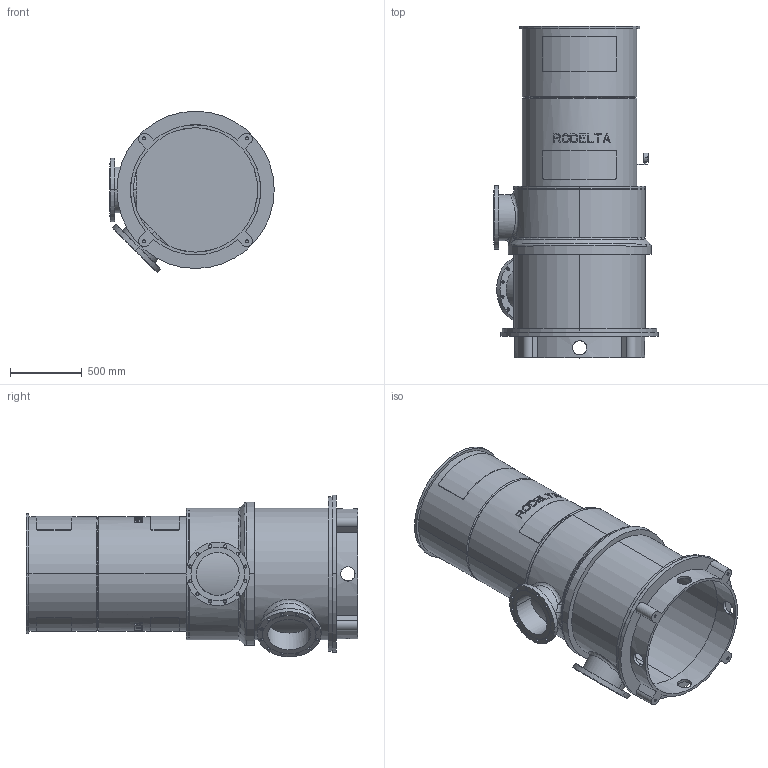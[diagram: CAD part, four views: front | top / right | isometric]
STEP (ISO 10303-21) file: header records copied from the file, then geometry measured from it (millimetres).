
FILE_DESCRIPTION((''),'2;1');
FILE_NAME('LS12_1TR_0GR','2023-08-10T',('Lyritlocal'),(''),'PRO/ENGINEER BY PARAMETRIC TECHNOLOGY CORPORATION, 2016360','PRO/ENGINEER BY PARAMETRIC TECHNOLOGY CORPORATION, 2016360','');
FILE_SCHEMA(('CONFIG_CONTROL_DESIGN'));
Length unit declared in the file: millimetre
Products named in the file (1): LS12_1TR_0GR
Bounding box: 1150 x 2320 x 1129.47 mm (x, y, z)
Volume: 127219392.3 mm3; surface area: 16689510.9 mm2
Topology: 3 solids, 7 shells, 559 faces, 1467 edges, 971 vertices
Faces by surface type: plane 335, cylinder 198, cone 13, bspline 10, torus 3
Entity records: 18762 total; most frequent: CARTESIAN_POINT 5164, ORIENTED_EDGE 2918, DIRECTION 2627, EDGE_CURVE 1467, AXIS2_PLACEMENT_3D 998, VERTEX_POINT 971, EDGE_LOOP 676, VECTOR 631
